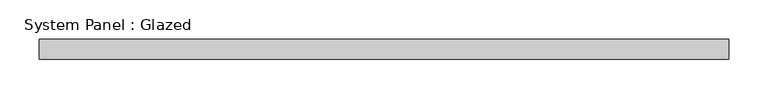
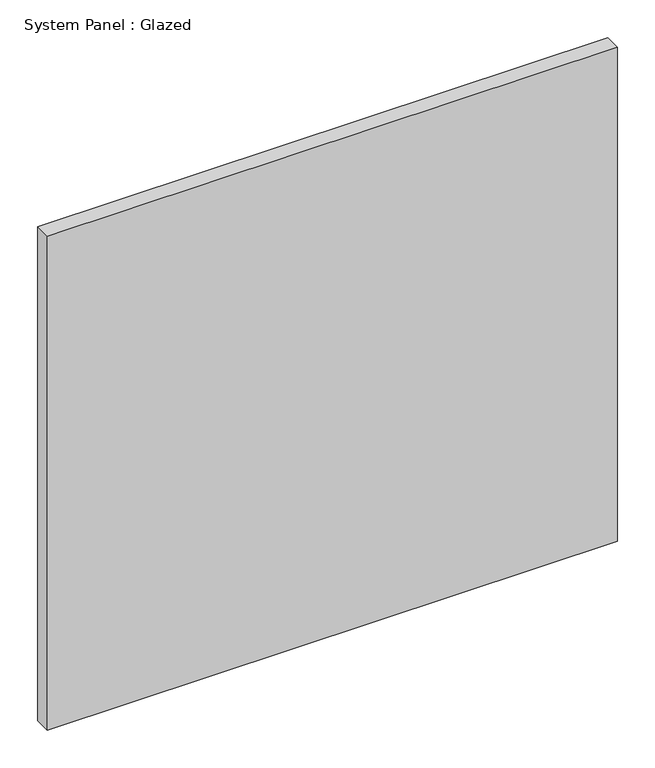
"""IFC4 building model written with IfcOpenShell, lengths in millimetres: plate geometry, System Panel : Glazed."""

import ifcopenshell
import ifcopenshell.guid

model = None  # the IFC model being written
_history = None  # IfcOwnerHistory: only IFC2X3 demands one
_inside = {}  # id of a spatial element -> (the spatial element, [elements in it])
_under = {}  # id of a project, library or spatial element -> (it, [spatial elements below it])
_declared = {}  # id of a project -> (the project, [libraries it declares])
_typed = {}  # id of a type object -> (the type object, [elements of that type])
_made_of = {}  # id of a material, layer set ... -> (it, [elements and type objects made of it])


def new_model(schema):
    """Start an empty IFC model of exactly this schema.

    Asked for "IFC4X3", IfcOpenShell would pick the latest addendum, in which some entities
    have other attributes; the version numbers below select the first issue.
    IFC2X3 requires an IfcOwnerHistory on every rooted entity: one is made here for all.
    """
    global model, _history
    if schema == "IFC4X3":
        model = ifcopenshell.file(schema_version=(4, 3, 0, 0))
    else:
        model = ifcopenshell.file(schema=schema)
    _inside.clear()
    _under.clear()
    _declared.clear()
    _typed.clear()
    _made_of.clear()
    _history = None
    if model.schema == "IFC2X3":
        org = make("IfcOrganization", Name="unknown")
        user = make(
            "IfcPersonAndOrganization",
            ThePerson=make("IfcPerson", FamilyName="unknown"),
            TheOrganization=org,
        )
        app = make(
            "IfcApplication",
            ApplicationDeveloper=org,
            Version="unknown",
            ApplicationFullName="unknown",
            ApplicationIdentifier="unknown",
        )
        _history = make(
            "IfcOwnerHistory",
            OwningUser=user,
            OwningApplication=app,
            ChangeAction="ADDED",
            CreationDate=0,
        )
    return model


def make(cls, **values):
    """One entity of the class cls with the attributes given. An attribute that is None is left unset."""
    return model.create_entity(
        cls, **{name: value for name, value in values.items() if value is not None}
    )


def rooted(cls, **values):
    """An entity with a GlobalId (a new one), such as an element, a storey or a relation."""
    return make(cls, GlobalId=ifcopenshell.guid.new(), OwnerHistory=_history, **values)


def si_unit(unit_type, name, prefix=None):
    """IfcSIUnit, for example si_unit("LENGTHUNIT", "METRE", prefix="MILLI")."""
    return make("IfcSIUnit", UnitType=unit_type, Prefix=prefix, Name=name)


def assignment(units):
    """IfcUnitAssignment: the units of a project."""
    return None if units is None else make("IfcUnitAssignment", Units=units)


def point(xyz):
    """IfcCartesianPoint."""
    return None if xyz is None else make("IfcCartesianPoint", Coordinates=xyz)


def direction(xyz):
    """IfcDirection."""
    return None if xyz is None else make("IfcDirection", DirectionRatios=xyz)


def frame(location, z_axis=None, x_axis=None):
    """IfcAxis2Placement3D, a coordinate frame: its origin and axes. An axis left out is left unset."""
    return make(
        "IfcAxis2Placement3D",
        Location=point(location),
        Axis=direction(z_axis),
        RefDirection=direction(x_axis),
    )


def origin():
    """The frame at (0, 0, 0) with its axes left unset."""
    return frame((0.0, 0.0, 0.0))


def origin_with_axes():
    """The frame at (0, 0, 0) with the z axis (0, 0, 1) and the x axis (1, 0, 0) written out."""
    return frame((0.0, 0.0, 0.0), z_axis=(0.0, 0.0, 1.0), x_axis=(1.0, 0.0, 0.0))


def place(relative_to, where):
    """IfcLocalPlacement: puts the frame where relative to a parent placement (None: the world)."""
    return make(
        "IfcLocalPlacement", PlacementRelTo=relative_to, RelativePlacement=where
    )


def context(
    kind, dimensions, precision=None, world=None, true_north=None, identifier=None
):
    """IfcGeometricRepresentationContext, for example the 3D "Model" context."""
    return make(
        "IfcGeometricRepresentationContext",
        ContextIdentifier=identifier,
        ContextType=kind,
        CoordinateSpaceDimension=dimensions,
        Precision=precision,
        WorldCoordinateSystem=world,
        TrueNorth=true_north,
    )


def project(units=None, contexts=None):
    """IfcProject with its units and contexts."""
    return rooted(
        "IfcProject",
        Name="project",
        RepresentationContexts=contexts,
        UnitsInContext=assignment(units),
    )


def spatial(cls, under=None, at=None, **own):
    """A site, building, storey or space (cls), placed at a placement, below another one or the project."""
    s = rooted(cls, ObjectPlacement=at, **own)
    if under is not None:
        _under.setdefault(under.id(), (under, []))[1].append(s)
    return s


def polyline(points):
    """IfcPolyline through the points."""
    return make("IfcPolyline", Points=[point(p) for p in points])


def outline(outer, holes=None, kind="AREA"):
    """IfcArbitraryClosedProfileDef: a profile drawn as a closed curve; with holes, ...WithVoids."""
    if holes is None:
        return make("IfcArbitraryClosedProfileDef", ProfileType=kind, OuterCurve=outer)
    return make(
        "IfcArbitraryProfileDefWithVoids",
        ProfileType=kind,
        OuterCurve=outer,
        InnerCurves=holes,
    )


def extrude(swept, where, along, depth):
    """IfcExtrudedAreaSolid: the profile swept, set in the frame where, extruded along a direction by depth."""
    return make(
        "IfcExtrudedAreaSolid",
        SweptArea=swept,
        Position=where,
        ExtrudedDirection=direction(along),
        Depth=depth,
    )


def shape(context_of_items, identifier, shape_type, items):
    """IfcShapeRepresentation: the items that make up one representation, for example the "Body"."""
    return make(
        "IfcShapeRepresentation",
        ContextOfItems=context_of_items,
        RepresentationIdentifier=identifier,
        RepresentationType=shape_type,
        Items=items,
    )


def source(mapping_origin, context_of_items, identifier, shape_type, items):
    """IfcRepresentationMap: a shape defined once, which mapped items show again and again."""
    return make(
        "IfcRepresentationMap",
        MappingOrigin=mapping_origin,
        MappedRepresentation=shape(context_of_items, identifier, shape_type, items),
    )


def transform(
    local_origin,
    x_axis=None,
    y_axis=None,
    z_axis=None,
    scale=None,
    scale2=None,
    scale3=None,
    uniform=True,
):
    """IfcCartesianTransformationOperator3D, or its non-uniform kind. x_axis, y_axis, z_axis: its Axis1, 2, 3."""
    if uniform:
        return make(
            "IfcCartesianTransformationOperator3D",
            Axis1=direction(x_axis),
            Axis2=direction(y_axis),
            LocalOrigin=point(local_origin),
            Scale=scale,
            Axis3=direction(z_axis),
        )
    return make(
        "IfcCartesianTransformationOperator3DnonUniform",
        Axis1=direction(x_axis),
        Axis2=direction(y_axis),
        LocalOrigin=point(local_origin),
        Scale=scale,
        Axis3=direction(z_axis),
        Scale2=scale2,
        Scale3=scale3,
    )


def mapped(mapping_source, mapping_target):
    """IfcMappedItem: shows the shape of a source again, moved by a transform."""
    return make(
        "IfcMappedItem", MappingSource=mapping_source, MappingTarget=mapping_target
    )


def made_of(thing, what):
    """Note that an element or type object is made of a material, layer set ...; save() writes the relation."""
    if what is not None:
        _made_of.setdefault(what.id(), (what, []))[1].append(thing)
    return thing


def element(
    cls,
    number,
    at=None,
    inside=None,
    cuts=None,
    type_object=None,
    material=None,
    context=None,
    identifier="Body",
    shape_type=None,
    held_by="IfcProductDefinitionShape",
    body=None,
    shapes=None,
    **own,
):
    """One element of the class cls, such as IfcWall. Its Tag is "e" and its number.

    at: its placement. inside: the storey or other place that contains it. cuts: it is an
    opening in that element (IfcRelVoidsElement). A single representation is given by context,
    identifier, shape_type and body (its items); several are given by shapes. held_by: the class
    of the entity that holds the representations. save() writes the other relations.
    """
    e = rooted(cls, Tag="e%d" % number, ObjectPlacement=at, **own)
    if body is not None:
        shapes = [shape(context, identifier, shape_type, body)]
    if shapes is not None:
        e.Representation = make(held_by, Representations=shapes)
    if inside is not None:
        _inside.setdefault(inside.id(), (inside, []))[1].append(e)
    if cuts is not None:
        rooted(
            "IfcRelVoidsElement", RelatingBuildingElement=cuts, RelatedOpeningElement=e
        )
    if type_object is not None:
        _typed.setdefault(type_object.id(), (type_object, []))[1].append(e)
    return made_of(e, material)


def aggregate(whole, parts):
    """IfcRelAggregates: a whole, such as a stair, and the parts it consists of."""
    return rooted("IfcRelAggregates", RelatingObject=whole, RelatedObjects=parts)


def save(model, path):
    """Write the relations noted so far, then the file.

    IfcRelAggregates (storeys below a building ...), IfcRelContainedInSpatialStructure (elements
    in a storey), IfcRelDefinesByType, IfcRelAssociatesMaterial and IfcRelDeclares: one each for
    every whole, place, type object, material and project.
    """
    for whole, parts in _under.values():
        aggregate(whole, parts)
    for where, things in _inside.values():
        rooted(
            "IfcRelContainedInSpatialStructure",
            RelatedElements=things,
            RelatingStructure=where,
        )
    for kind, things in _typed.values():
        rooted("IfcRelDefinesByType", RelatedObjects=things, RelatingType=kind)
    for what, things in _made_of.values():
        rooted("IfcRelAssociatesMaterial", RelatedObjects=things, RelatingMaterial=what)
    for by, libraries in _declared.values():
        rooted("IfcRelDeclares", RelatingContext=by, RelatedDefinitions=libraries)
    model.write(path)


def system_panel_glazed_1e867d6b(model_context):
    return source(origin(), model_context, "Body", "SweptSolid", [
        extrude(outline(polyline([(438.15, -44.45), (-438.15, -44.45), (-438.15, -19.05), (438.15, -19.05), (438.15, -44.45)])), origin_with_axes(), (0.0, 0.0, 1.0), 802.4190025),
    ])


if __name__ == "__main__":
    model = new_model("IFC4")
    model_context = context("Model", 3, world=origin())
    ifc_project = project(units=[si_unit("LENGTHUNIT", "METRE", prefix="MILLI")], contexts=[model_context])
    site = spatial("IfcSite", under=ifc_project)
    building = spatial("IfcBuilding", under=site)
    placement = place(None, origin())
    system_panel_glazed_shape = system_panel_glazed_1e867d6b(model_context)
    element("IfcPlate", 1, ObjectType="System Panel : Glazed", at=placement, inside=building, context=model_context, shape_type="MappedRepresentation", body=[
        mapped(system_panel_glazed_shape, transform((0.0, 0.0, 0.0), x_axis=(1.0, 0.0, 0.0), y_axis=(0.0, 1.0, 0.0), z_axis=(0.0, 0.0, 1.0))),
    ])
    save(model, "model.ifc")
